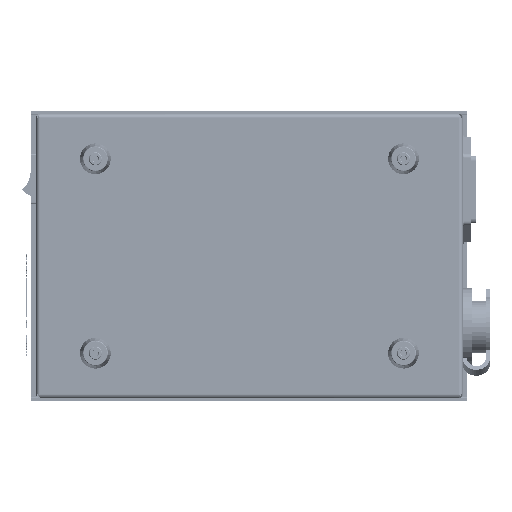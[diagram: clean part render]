
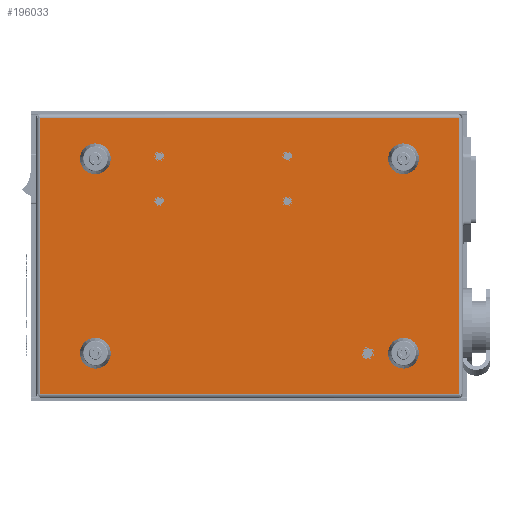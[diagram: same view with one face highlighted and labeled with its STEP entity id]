
A CAD part, front view. The second image highlights one B-rep face of the part: STEP entity #196033.
In plain terms, the highlighted planar face has unit normal (0, -1, 0).
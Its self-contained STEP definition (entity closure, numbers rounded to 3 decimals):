
#1959=CIRCLE('',#206203,2.11);
#1961=CIRCLE('',#206206,2.11);
#1963=CIRCLE('',#206209,2.11);
#1965=CIRCLE('',#206212,2.11);
#1967=CIRCLE('',#206215,2.);
#1969=CIRCLE('',#206218,1.5);
#1971=CIRCLE('',#206221,1.5);
#1973=CIRCLE('',#206224,1.5);
#1975=CIRCLE('',#206227,1.5);
#3636=FACE_BOUND('',#24981,.T.);
#3637=FACE_BOUND('',#24982,.T.);
#3638=FACE_BOUND('',#24983,.T.);
#3639=FACE_BOUND('',#24984,.T.);
#3640=FACE_BOUND('',#24985,.T.);
#3641=FACE_BOUND('',#24986,.T.);
#3642=FACE_BOUND('',#24987,.T.);
#3643=FACE_BOUND('',#24988,.T.);
#3644=FACE_BOUND('',#24989,.T.);
#6989=PLANE('',#206295);
#14046=FACE_OUTER_BOUND('',#24980,.T.);
#24980=EDGE_LOOP('',(#138802,#138803,#138804,#138805));
#24981=EDGE_LOOP('',(#138806));
#24982=EDGE_LOOP('',(#138807));
#24983=EDGE_LOOP('',(#138808));
#24984=EDGE_LOOP('',(#138809));
#24985=EDGE_LOOP('',(#138810));
#24986=EDGE_LOOP('',(#138811));
#24987=EDGE_LOOP('',(#138812));
#24988=EDGE_LOOP('',(#138813));
#24989=EDGE_LOOP('',(#138814));
#39955=LINE('',#272048,#59330);
#39958=LINE('',#272060,#59333);
#39959=LINE('',#272062,#59334);
#39960=LINE('',#272063,#59335);
#59330=VECTOR('',#221102,116.6);
#59333=VECTOR('',#221113,176.6);
#59334=VECTOR('',#221114,116.6);
#59335=VECTOR('',#221115,176.6);
#84699=VERTEX_POINT('',#271851);
#84701=VERTEX_POINT('',#271856);
#84703=VERTEX_POINT('',#271861);
#84705=VERTEX_POINT('',#271866);
#84707=VERTEX_POINT('',#271871);
#84709=VERTEX_POINT('',#271876);
#84711=VERTEX_POINT('',#271881);
#84713=VERTEX_POINT('',#271886);
#84715=VERTEX_POINT('',#271891);
#84768=VERTEX_POINT('',#272045);
#84769=VERTEX_POINT('',#272047);
#84774=VERTEX_POINT('',#272059);
#84775=VERTEX_POINT('',#272061);
#105354=EDGE_CURVE('',#84699,#84699,#1959,.T.);
#105356=EDGE_CURVE('',#84701,#84701,#1961,.T.);
#105358=EDGE_CURVE('',#84703,#84703,#1963,.T.);
#105360=EDGE_CURVE('',#84705,#84705,#1965,.T.);
#105362=EDGE_CURVE('',#84707,#84707,#1967,.T.);
#105364=EDGE_CURVE('',#84709,#84709,#1969,.T.);
#105366=EDGE_CURVE('',#84711,#84711,#1971,.T.);
#105368=EDGE_CURVE('',#84713,#84713,#1973,.T.);
#105370=EDGE_CURVE('',#84715,#84715,#1975,.T.);
#105440=EDGE_CURVE('',#84768,#84769,#39955,.T.);
#105446=EDGE_CURVE('',#84774,#84768,#39958,.T.);
#105447=EDGE_CURVE('',#84775,#84774,#39959,.T.);
#105448=EDGE_CURVE('',#84769,#84775,#39960,.T.);
#138802=ORIENTED_EDGE('',*,*,#105440,.F.);
#138803=ORIENTED_EDGE('',*,*,#105446,.F.);
#138804=ORIENTED_EDGE('',*,*,#105447,.F.);
#138805=ORIENTED_EDGE('',*,*,#105448,.F.);
#138806=ORIENTED_EDGE('',*,*,#105354,.T.);
#138807=ORIENTED_EDGE('',*,*,#105356,.T.);
#138808=ORIENTED_EDGE('',*,*,#105358,.T.);
#138809=ORIENTED_EDGE('',*,*,#105360,.T.);
#138810=ORIENTED_EDGE('',*,*,#105362,.T.);
#138811=ORIENTED_EDGE('',*,*,#105364,.T.);
#138812=ORIENTED_EDGE('',*,*,#105366,.T.);
#138813=ORIENTED_EDGE('',*,*,#105368,.T.);
#138814=ORIENTED_EDGE('',*,*,#105370,.T.);
#196033=ADVANCED_FACE('',(#14046,#3636,#3637,#3638,#3639,#3640,#3641,#3642,
#3643,#3644),#6989,.T.);
#206203=AXIS2_PLACEMENT_3D('',#271852,#220887,#220888);
#206206=AXIS2_PLACEMENT_3D('',#271857,#220893,#220894);
#206209=AXIS2_PLACEMENT_3D('',#271862,#220899,#220900);
#206212=AXIS2_PLACEMENT_3D('',#271867,#220905,#220906);
#206215=AXIS2_PLACEMENT_3D('',#271872,#220911,#220912);
#206218=AXIS2_PLACEMENT_3D('',#271877,#220917,#220918);
#206221=AXIS2_PLACEMENT_3D('',#271882,#220923,#220924);
#206224=AXIS2_PLACEMENT_3D('',#271887,#220929,#220930);
#206227=AXIS2_PLACEMENT_3D('',#271892,#220935,#220936);
#206295=AXIS2_PLACEMENT_3D('',#272058,#221111,#221112);
#220887=DIRECTION('center_axis',(0.,1.,0.));
#220888=DIRECTION('ref_axis',(1.,0.,0.));
#220893=DIRECTION('center_axis',(0.,1.,0.));
#220894=DIRECTION('ref_axis',(1.,0.,0.));
#220899=DIRECTION('center_axis',(0.,1.,0.));
#220900=DIRECTION('ref_axis',(1.,0.,0.));
#220905=DIRECTION('center_axis',(0.,1.,0.));
#220906=DIRECTION('ref_axis',(1.,0.,0.));
#220911=DIRECTION('center_axis',(0.,1.,0.));
#220912=DIRECTION('ref_axis',(-1.,0.,0.));
#220917=DIRECTION('center_axis',(0.,1.,0.));
#220918=DIRECTION('ref_axis',(-1.,0.,0.));
#220923=DIRECTION('center_axis',(0.,1.,0.));
#220924=DIRECTION('ref_axis',(-1.,0.,0.));
#220929=DIRECTION('center_axis',(0.,1.,0.));
#220930=DIRECTION('ref_axis',(-1.,0.,0.));
#220935=DIRECTION('center_axis',(0.,1.,0.));
#220936=DIRECTION('ref_axis',(-1.,0.,0.));
#221102=DIRECTION('',(0.,0.,1.));
#221111=DIRECTION('center_axis',(0.,-1.,0.));
#221112=DIRECTION('ref_axis',(0.,0.,-1.));
#221113=DIRECTION('',(-1.,0.,0.));
#221114=DIRECTION('',(0.,0.,-1.));
#221115=DIRECTION('',(1.,0.,0.));
#271851=CARTESIAN_POINT('',(-67.11,0.,-41.));
#271852=CARTESIAN_POINT('Origin',(-65.,0.,-41.));
#271856=CARTESIAN_POINT('',(-67.11,0.,41.));
#271857=CARTESIAN_POINT('Origin',(-65.,0.,41.));
#271861=CARTESIAN_POINT('',(62.89,0.,41.));
#271862=CARTESIAN_POINT('Origin',(65.,0.,41.));
#271866=CARTESIAN_POINT('',(62.89,0.,-41.));
#271867=CARTESIAN_POINT('Origin',(65.,0.,-41.));
#271871=CARTESIAN_POINT('',(52.,0.,-41.));
#271872=CARTESIAN_POINT('Origin',(50.,0.,-41.));
#271876=CARTESIAN_POINT('',(17.5,0.,23.));
#271877=CARTESIAN_POINT('Origin',(16.,0.,23.));
#271881=CARTESIAN_POINT('',(17.5,0.,42.));
#271882=CARTESIAN_POINT('Origin',(16.,0.,42.));
#271886=CARTESIAN_POINT('',(-36.5,0.,42.));
#271887=CARTESIAN_POINT('Origin',(-38.,0.,42.));
#271891=CARTESIAN_POINT('',(-36.5,0.,23.));
#271892=CARTESIAN_POINT('Origin',(-38.,0.,23.));
#272045=CARTESIAN_POINT('',(-88.3,0.,-58.3));
#272047=CARTESIAN_POINT('',(-88.3,0.,58.3));
#272048=CARTESIAN_POINT('',(-88.3,0.,0.));
#272058=CARTESIAN_POINT('Origin',(90.,0.,0.));
#272059=CARTESIAN_POINT('',(88.3,0.,-58.3));
#272060=CARTESIAN_POINT('',(45.,0.,-58.3));
#272061=CARTESIAN_POINT('',(88.3,0.,58.3));
#272062=CARTESIAN_POINT('',(88.3,0.,0.));
#272063=CARTESIAN_POINT('',(45.,0.,58.3));
